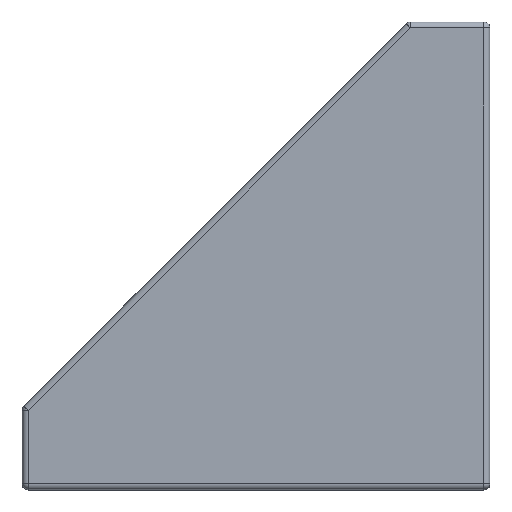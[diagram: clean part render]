
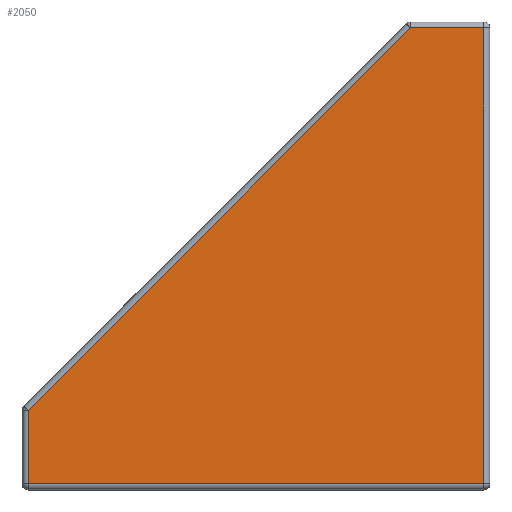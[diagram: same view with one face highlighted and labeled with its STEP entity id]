
A CAD part, top view. The second image highlights one B-rep face of the part: STEP entity #2050.
In plain terms, the highlighted planar face has unit normal (0, 0, 1).
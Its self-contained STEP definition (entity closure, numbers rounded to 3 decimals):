
#119=PLANE('',#2219);
#153=FACE_OUTER_BOUND('',#300,.T.);
#300=EDGE_LOOP('',(#1421,#1422,#1423,#1424,#1425));
#492=LINE('',#3551,#643);
#493=LINE('',#3553,#644);
#494=LINE('',#3555,#645);
#495=LINE('',#3557,#646);
#496=LINE('',#3558,#647);
#643=VECTOR('',#2541,1000.);
#644=VECTOR('',#2542,1000.);
#645=VECTOR('',#2543,1000.);
#646=VECTOR('',#2544,1000.);
#647=VECTOR('',#2545,1000.);
#930=VERTEX_POINT('',#3549);
#931=VERTEX_POINT('',#3550);
#932=VERTEX_POINT('',#3552);
#933=VERTEX_POINT('',#3554);
#934=VERTEX_POINT('',#3556);
#1106=EDGE_CURVE('',#930,#931,#492,.T.);
#1107=EDGE_CURVE('',#931,#932,#493,.T.);
#1108=EDGE_CURVE('',#932,#933,#494,.T.);
#1109=EDGE_CURVE('',#933,#934,#495,.T.);
#1110=EDGE_CURVE('',#934,#930,#496,.T.);
#1421=ORIENTED_EDGE('',*,*,#1106,.T.);
#1422=ORIENTED_EDGE('',*,*,#1107,.T.);
#1423=ORIENTED_EDGE('',*,*,#1108,.T.);
#1424=ORIENTED_EDGE('',*,*,#1109,.T.);
#1425=ORIENTED_EDGE('',*,*,#1110,.T.);
#2050=ADVANCED_FACE('',(#153),#119,.F.);
#2219=AXIS2_PLACEMENT_3D('',#3548,#2539,#2540);
#2539=DIRECTION('center_axis',(0.,0.,-1.));
#2540=DIRECTION('ref_axis',(-1.,0.,0.));
#2541=DIRECTION('',(0.,-1.,0.));
#2542=DIRECTION('',(1.,0.,0.));
#2543=DIRECTION('',(0.,1.,0.));
#2544=DIRECTION('',(-1.,0.,0.));
#2545=DIRECTION('',(-0.707,-0.707,0.));
#3548=CARTESIAN_POINT('Origin',(0.,0.,9.));
#3549=CARTESIAN_POINT('',(-39.5,6.793,9.));
#3550=CARTESIAN_POINT('',(-39.5,0.5,9.));
#3551=CARTESIAN_POINT('',(-39.5,0.,9.));
#3552=CARTESIAN_POINT('',(-0.5,0.5,9.));
#3553=CARTESIAN_POINT('',(0.,0.5,9.));
#3554=CARTESIAN_POINT('',(-0.5,39.5,9.));
#3555=CARTESIAN_POINT('',(-0.5,0.,9.));
#3556=CARTESIAN_POINT('',(-6.793,39.5,9.));
#3557=CARTESIAN_POINT('',(0.,39.5,9.));
#3558=CARTESIAN_POINT('',(-23.146,23.146,9.));
